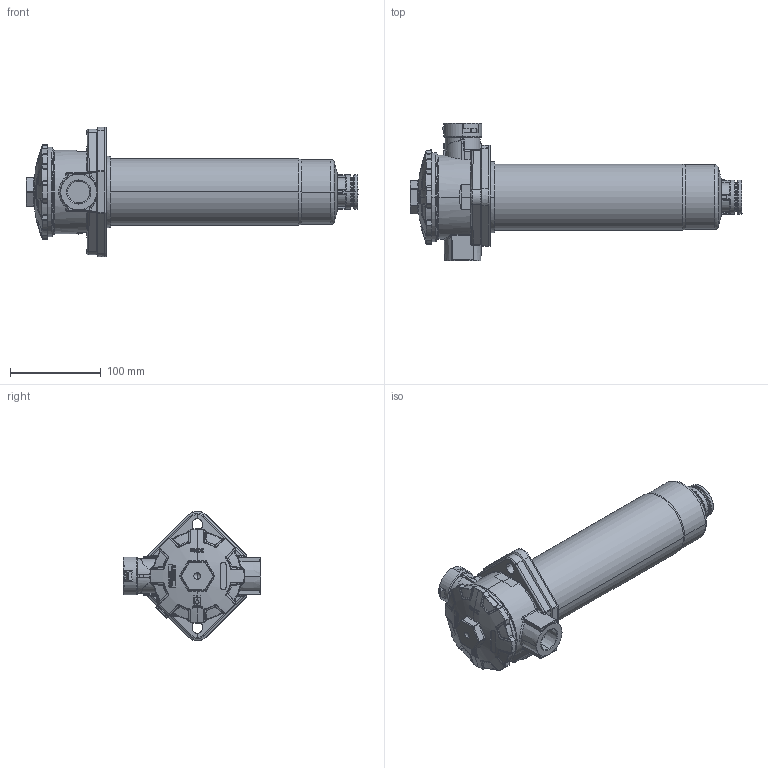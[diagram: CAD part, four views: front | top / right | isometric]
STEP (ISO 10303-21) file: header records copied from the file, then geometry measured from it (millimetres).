
FILE_DESCRIPTION((''),'2;1');
FILE_NAME('13313300_317433','2024-08-30T11:05:22',('a.heinl'),(''),'CREO PARAMETRIC BY PTC INC, 2023254','CREO PARAMETRIC BY PTC INC, 2023254','');
FILE_SCHEMA(('AUTOMOTIVE_DESIGN { 1 0 10303 214 1 1 1 1 }'));
Length unit declared in the file: millimetre
Products named in the file (1): 13313300_317433
Bounding box: 364.95 x 151.5 x 142.55 mm (x, y, z)
Volume: 1701232.7 mm3; surface area: 135171.7 mm2
Topology: 1 solids, 3 shells, 1411 faces, 3598 edges, 2190 vertices
Faces by surface type: plane 510, bspline 349, cylinder 250, torus 111, cone 105, sphere 55, extrusion 31
Entity records: 71293 total; most frequent: CARTESIAN_POINT 29230, ORIENTED_EDGE 7120, DIRECTION 5829, PRESENTATION_STYLE_ASSIGNMENT 3561, STYLED_ITEM 3561, CURVE_STYLE 3560, EDGE_CURVE 3560, AXIS2_PLACEMENT_3D 2364
